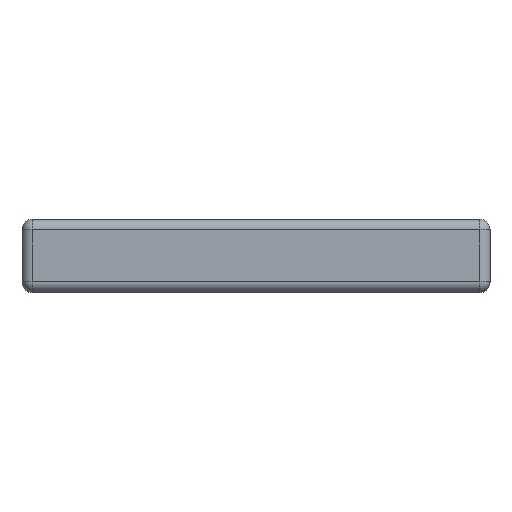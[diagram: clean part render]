
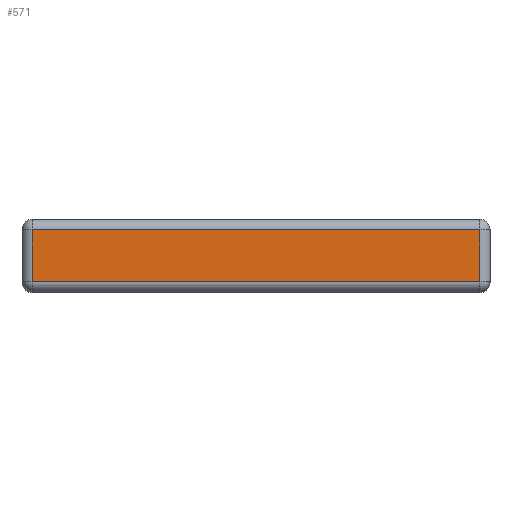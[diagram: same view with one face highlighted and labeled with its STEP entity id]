
A CAD part, top view. The second image highlights one B-rep face of the part: STEP entity #571.
In plain terms, the highlighted planar face has unit normal (0, 0, 1).
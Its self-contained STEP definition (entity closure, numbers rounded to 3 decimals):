
#571=ADVANCED_FACE('',(#1001),#1003,.T.);
#1001=FACE_BOUND('',#1002,.T.);
#1002=EDGE_LOOP('',(#1248,#1249,#1250,#1251));
#1003=PLANE('',#1004);
#1004=AXIS2_PLACEMENT_3D('',#1005,#1006,#1007);
#1005=CARTESIAN_POINT('',(0.,0.,2.));
#1006=DIRECTION('',(0.,0.,1.));
#1007=DIRECTION('',(-1.,0.,0.));
#1248=ORIENTED_EDGE('',*,*,#1370,.T.);
#1249=ORIENTED_EDGE('',*,*,#1362,.T.);
#1250=ORIENTED_EDGE('',*,*,#1357,.T.);
#1251=ORIENTED_EDGE('',*,*,#1373,.T.);
#1357=EDGE_CURVE('',#1533,#1531,#1534,.T.);
#1362=EDGE_CURVE('',#1537,#1533,#1540,.T.);
#1370=EDGE_CURVE('',#1549,#1537,#1550,.T.);
#1373=EDGE_CURVE('',#1531,#1549,#1553,.T.);
#1531=VERTEX_POINT('',#1955);
#1533=VERTEX_POINT('',#1960);
#1534=LINE('',#1961,#1962);
#1537=VERTEX_POINT('',#1972);
#1540=LINE('',#1981,#1982);
#1549=VERTEX_POINT('',#2012);
#1550=LINE('',#2013,#2014);
#1553=LINE('',#2024,#2025);
#1955=CARTESIAN_POINT('',(-2.15,0.25,2.));
#1960=CARTESIAN_POINT('',(2.15,0.25,2.));
#1961=CARTESIAN_POINT('',(2.15,0.25,2.));
#1962=VECTOR('',#1963,1.);
#1963=DIRECTION('',(-1.,0.,0.));
#1972=CARTESIAN_POINT('',(2.15,-0.25,2.));
#1981=CARTESIAN_POINT('',(2.15,-0.25,2.));
#1982=VECTOR('',#1983,1.);
#1983=DIRECTION('',(0.,1.,0.));
#2012=CARTESIAN_POINT('',(-2.15,-0.25,2.));
#2013=CARTESIAN_POINT('',(-2.15,-0.25,2.));
#2014=VECTOR('',#2015,1.);
#2015=DIRECTION('',(1.,0.,0.));
#2024=CARTESIAN_POINT('',(-2.15,0.25,2.));
#2025=VECTOR('',#2026,1.);
#2026=DIRECTION('',(0.,-1.,0.));
